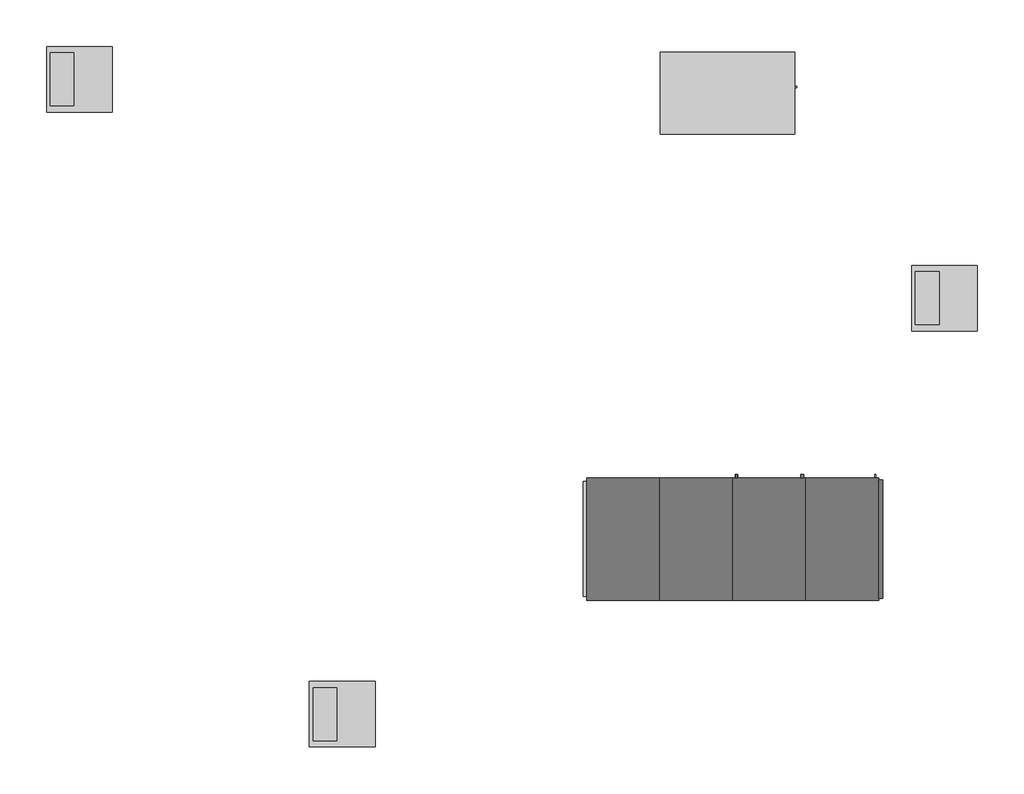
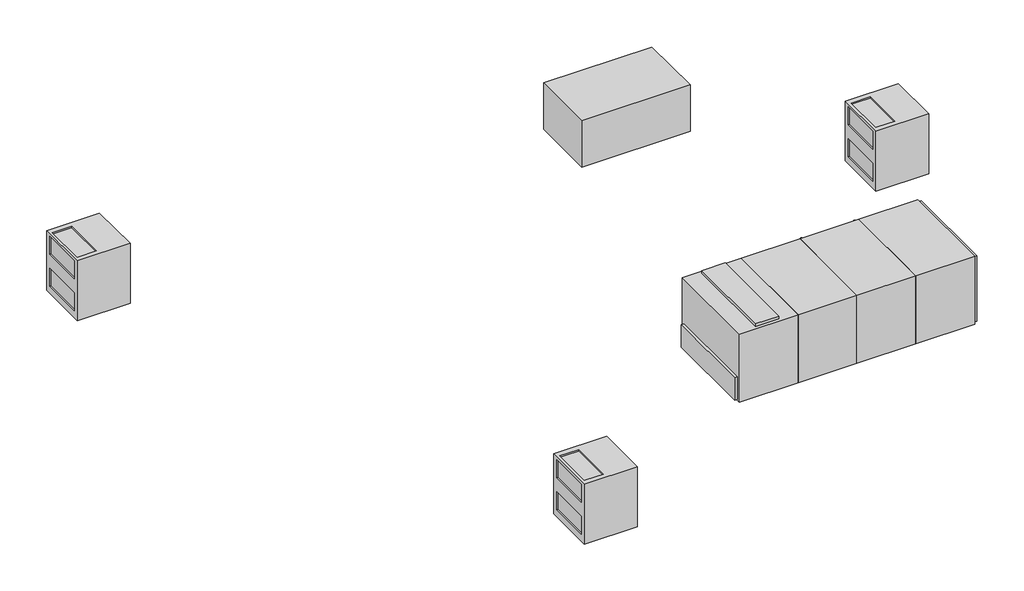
# One storey, incomplete: 5 proxies.
"""IFC4 building model written with IfcOpenShell, lengths in millimetres."""

import ifcopenshell
import ifcopenshell.guid

model = None  # the IFC model being written
_history = None  # IfcOwnerHistory: only IFC2X3 demands one
_inside = {}  # id of a spatial element -> (the spatial element, [elements in it])
_under = {}  # id of a project, library or spatial element -> (it, [spatial elements below it])
_declared = {}  # id of a project -> (the project, [libraries it declares])
_typed = {}  # id of a type object -> (the type object, [elements of that type])
_made_of = {}  # id of a material, layer set ... -> (it, [elements and type objects made of it])


def new_model(schema):
    """Start an empty IFC model of exactly this schema.

    Asked for "IFC4X3", IfcOpenShell would pick the latest addendum, in which some entities
    have other attributes; the version numbers below select the first issue.
    IFC2X3 requires an IfcOwnerHistory on every rooted entity: one is made here for all.
    """
    global model, _history
    if schema == "IFC4X3":
        model = ifcopenshell.file(schema_version=(4, 3, 0, 0))
    else:
        model = ifcopenshell.file(schema=schema)
    _inside.clear()
    _under.clear()
    _declared.clear()
    _typed.clear()
    _made_of.clear()
    _history = None
    if model.schema == "IFC2X3":
        org = make("IfcOrganization", Name="unknown")
        user = make(
            "IfcPersonAndOrganization",
            ThePerson=make("IfcPerson", FamilyName="unknown"),
            TheOrganization=org,
        )
        app = make(
            "IfcApplication",
            ApplicationDeveloper=org,
            Version="unknown",
            ApplicationFullName="unknown",
            ApplicationIdentifier="unknown",
        )
        _history = make(
            "IfcOwnerHistory",
            OwningUser=user,
            OwningApplication=app,
            ChangeAction="ADDED",
            CreationDate=0,
        )
    return model


def make(cls, **values):
    """One entity of the class cls with the attributes given. An attribute that is None is left unset."""
    return model.create_entity(
        cls, **{name: value for name, value in values.items() if value is not None}
    )


def rooted(cls, **values):
    """An entity with a GlobalId (a new one), such as an element, a storey or a relation."""
    return make(cls, GlobalId=ifcopenshell.guid.new(), OwnerHistory=_history, **values)


def si_unit(unit_type, name, prefix=None):
    """IfcSIUnit, for example si_unit("LENGTHUNIT", "METRE", prefix="MILLI")."""
    return make("IfcSIUnit", UnitType=unit_type, Prefix=prefix, Name=name)


def assignment(units):
    """IfcUnitAssignment: the units of a project."""
    return None if units is None else make("IfcUnitAssignment", Units=units)


def point(xyz):
    """IfcCartesianPoint."""
    return None if xyz is None else make("IfcCartesianPoint", Coordinates=xyz)


def direction(xyz):
    """IfcDirection."""
    return None if xyz is None else make("IfcDirection", DirectionRatios=xyz)


def frame(location, z_axis=None, x_axis=None):
    """IfcAxis2Placement3D, a coordinate frame: its origin and axes. An axis left out is left unset."""
    return make(
        "IfcAxis2Placement3D",
        Location=point(location),
        Axis=direction(z_axis),
        RefDirection=direction(x_axis),
    )


def frame_2d(location, x_axis=None):
    """IfcAxis2Placement2D, a coordinate frame in the plane: its origin and x axis."""
    return make(
        "IfcAxis2Placement2D", Location=point(location), RefDirection=direction(x_axis)
    )


def origin():
    """The frame at (0, 0, 0) with its axes left unset."""
    return frame((0.0, 0.0, 0.0))


def origin_with_axes():
    """The frame at (0, 0, 0) with the z axis (0, 0, 1) and the x axis (1, 0, 0) written out."""
    return frame((0.0, 0.0, 0.0), z_axis=(0.0, 0.0, 1.0), x_axis=(1.0, 0.0, 0.0))


def place(relative_to, where):
    """IfcLocalPlacement: puts the frame where relative to a parent placement (None: the world)."""
    return make(
        "IfcLocalPlacement", PlacementRelTo=relative_to, RelativePlacement=where
    )


def context(
    kind, dimensions, precision=None, world=None, true_north=None, identifier=None
):
    """IfcGeometricRepresentationContext, for example the 3D "Model" context."""
    return make(
        "IfcGeometricRepresentationContext",
        ContextIdentifier=identifier,
        ContextType=kind,
        CoordinateSpaceDimension=dimensions,
        Precision=precision,
        WorldCoordinateSystem=world,
        TrueNorth=true_north,
    )


def project(units=None, contexts=None):
    """IfcProject with its units and contexts."""
    return rooted(
        "IfcProject",
        Name="project",
        RepresentationContexts=contexts,
        UnitsInContext=assignment(units),
    )


def spatial(cls, under=None, at=None, **own):
    """A site, building, storey or space (cls), placed at a placement, below another one or the project."""
    s = rooted(cls, ObjectPlacement=at, **own)
    if under is not None:
        _under.setdefault(under.id(), (under, []))[1].append(s)
    return s


def polyline(points):
    """IfcPolyline through the points."""
    return make("IfcPolyline", Points=[point(p) for p in points])


def circle_curve(where, radius):
    """IfcCircle in the frame where."""
    return make("IfcCircle", Position=where, Radius=radius)


def trimmed(basis, trim1, trim2, sense, master):
    """IfcTrimmedCurve: the piece of a basis curve between two trims."""
    return make(
        "IfcTrimmedCurve",
        BasisCurve=basis,
        Trim1=trim1,
        Trim2=trim2,
        SenseAgreement=sense,
        MasterRepresentation=master,
    )


def segment(curve, same_sense, transition):
    """IfcCompositeCurveSegment."""
    return make(
        "IfcCompositeCurveSegment",
        Transition=transition,
        SameSense=same_sense,
        ParentCurve=curve,
    )


def composite_curve(segments, self_intersect=None):
    """IfcCompositeCurve: segments joined end to end."""
    return make("IfcCompositeCurve", Segments=segments, SelfIntersect=self_intersect)


def outline(outer, holes=None, kind="AREA"):
    """IfcArbitraryClosedProfileDef: a profile drawn as a closed curve; with holes, ...WithVoids."""
    if holes is None:
        return make("IfcArbitraryClosedProfileDef", ProfileType=kind, OuterCurve=outer)
    return make(
        "IfcArbitraryProfileDefWithVoids",
        ProfileType=kind,
        OuterCurve=outer,
        InnerCurves=holes,
    )


def extrude(swept, where, along, depth):
    """IfcExtrudedAreaSolid: the profile swept, set in the frame where, extruded along a direction by depth."""
    return make(
        "IfcExtrudedAreaSolid",
        SweptArea=swept,
        Position=where,
        ExtrudedDirection=direction(along),
        Depth=depth,
    )


def faces_of(points, faces, orient=None, outer=None):
    """IfcFace entities. A face is a list of loops; a loop is a list of indices into points, from 0.

    orient and outer hold one flag for each loop. By default every Orientation is true, the
    first loop of a face is its IfcFaceOuterBound and the others are IfcFaceBound.
    """
    made = []
    for i, loops in enumerate(faces):
        bounds = []
        for j, loop in enumerate(loops):
            is_outer = j == 0 if outer is None else outer[i][j]
            bounds.append(
                make(
                    "IfcFaceOuterBound" if is_outer else "IfcFaceBound",
                    Bound=make("IfcPolyLoop", Polygon=[points[k] for k in loop]),
                    Orientation=True if orient is None else orient[i][j],
                )
            )
        made.append(make("IfcFace", Bounds=bounds))
    return made


def faceted_brep(points, faces, orient=None, outer=None, voids=None):
    """IfcFacetedBrep: a solid bounded by flat faces; with voids (closed shells), ...WithVoids."""
    shared = [point(p) for p in points]
    hull = make("IfcClosedShell", CfsFaces=faces_of(shared, faces, orient, outer))
    if voids is None:
        return make("IfcFacetedBrep", Outer=hull)
    return make(
        "IfcFacetedBrepWithVoids",
        Outer=hull,
        Voids=[
            make(cls, CfsFaces=faces_of(shared, fs, o, b)) for cls, fs, o, b in voids
        ],
    )


def shape(context_of_items, identifier, shape_type, items):
    """IfcShapeRepresentation: the items that make up one representation, for example the "Body"."""
    return make(
        "IfcShapeRepresentation",
        ContextOfItems=context_of_items,
        RepresentationIdentifier=identifier,
        RepresentationType=shape_type,
        Items=items,
    )


def source(mapping_origin, context_of_items, identifier, shape_type, items):
    """IfcRepresentationMap: a shape defined once, which mapped items show again and again."""
    return make(
        "IfcRepresentationMap",
        MappingOrigin=mapping_origin,
        MappedRepresentation=shape(context_of_items, identifier, shape_type, items),
    )


def transform(
    local_origin,
    x_axis=None,
    y_axis=None,
    z_axis=None,
    scale=None,
    scale2=None,
    scale3=None,
    uniform=True,
):
    """IfcCartesianTransformationOperator3D, or its non-uniform kind. x_axis, y_axis, z_axis: its Axis1, 2, 3."""
    if uniform:
        return make(
            "IfcCartesianTransformationOperator3D",
            Axis1=direction(x_axis),
            Axis2=direction(y_axis),
            LocalOrigin=point(local_origin),
            Scale=scale,
            Axis3=direction(z_axis),
        )
    return make(
        "IfcCartesianTransformationOperator3DnonUniform",
        Axis1=direction(x_axis),
        Axis2=direction(y_axis),
        LocalOrigin=point(local_origin),
        Scale=scale,
        Axis3=direction(z_axis),
        Scale2=scale2,
        Scale3=scale3,
    )


def mapped(mapping_source, mapping_target):
    """IfcMappedItem: shows the shape of a source again, moved by a transform."""
    return make(
        "IfcMappedItem", MappingSource=mapping_source, MappingTarget=mapping_target
    )


def made_of(thing, what):
    """Note that an element or type object is made of a material, layer set ...; save() writes the relation."""
    if what is not None:
        _made_of.setdefault(what.id(), (what, []))[1].append(thing)
    return thing


def element(
    cls,
    number,
    at=None,
    inside=None,
    cuts=None,
    type_object=None,
    material=None,
    context=None,
    identifier="Body",
    shape_type=None,
    held_by="IfcProductDefinitionShape",
    body=None,
    shapes=None,
    **own,
):
    """One element of the class cls, such as IfcWall. Its Tag is "e" and its number.

    at: its placement. inside: the storey or other place that contains it. cuts: it is an
    opening in that element (IfcRelVoidsElement). A single representation is given by context,
    identifier, shape_type and body (its items); several are given by shapes. held_by: the class
    of the entity that holds the representations. save() writes the other relations.
    """
    e = rooted(cls, Tag="e%d" % number, ObjectPlacement=at, **own)
    if body is not None:
        shapes = [shape(context, identifier, shape_type, body)]
    if shapes is not None:
        e.Representation = make(held_by, Representations=shapes)
    if inside is not None:
        _inside.setdefault(inside.id(), (inside, []))[1].append(e)
    if cuts is not None:
        rooted(
            "IfcRelVoidsElement", RelatingBuildingElement=cuts, RelatedOpeningElement=e
        )
    if type_object is not None:
        _typed.setdefault(type_object.id(), (type_object, []))[1].append(e)
    return made_of(e, material)


def aggregate(whole, parts):
    """IfcRelAggregates: a whole, such as a stair, and the parts it consists of."""
    return rooted("IfcRelAggregates", RelatingObject=whole, RelatedObjects=parts)


def save(model, path):
    """Write the relations noted so far, then the file.

    IfcRelAggregates (storeys below a building ...), IfcRelContainedInSpatialStructure (elements
    in a storey), IfcRelDefinesByType, IfcRelAssociatesMaterial and IfcRelDeclares: one each for
    every whole, place, type object, material and project.
    """
    for whole, parts in _under.values():
        aggregate(whole, parts)
    for where, things in _inside.values():
        rooted(
            "IfcRelContainedInSpatialStructure",
            RelatedElements=things,
            RelatingStructure=where,
        )
    for kind, things in _typed.values():
        rooted("IfcRelDefinesByType", RelatedObjects=things, RelatingType=kind)
    for what, things in _made_of.values():
        rooted("IfcRelAssociatesMaterial", RelatedObjects=things, RelatingMaterial=what)
    for by, libraries in _declared.values():
        rooted("IfcRelDeclares", RelatingContext=by, RelatedDefinitions=libraries)
    model.write(path)


def outdoor_ahu_horizontal_12_square_feet_of_coil_fc6a1677(model_context):
    return source(origin(), model_context, "Body", "SweptSolid", [
        extrude(outline(composite_curve([segment(trimmed(circle_curve(frame_2d((50.8, 2997.2)), 15.875), [point((50.8, 2981.325))], [point((50.8, 3013.075))], False, "CARTESIAN"), True, "CONTINUOUS"), segment(trimmed(circle_curve(frame_2d((50.8, 2997.2)), 15.875), [point((50.8, 3013.075))], [point((50.8, 2981.325))], False, "CARTESIAN"), True, "CONTINUOUS")], self_intersect=False)), frame((0.0, 850.9, 0.0), z_axis=(0.0, 1.0, 0.0), x_axis=(0.0, 0.0, 1.0)), (0.0, 0.0, 1.0), 50.8),
        extrude(outline(composite_curve([segment(trimmed(circle_curve(frame_2d((254.0, 4013.2)), 6.35), [point((254.0, 4006.85))], [point((254.0, 4019.55))], False, "CARTESIAN"), True, "CONTINUOUS"), segment(trimmed(circle_curve(frame_2d((254.0, 4013.2)), 6.35), [point((254.0, 4019.55))], [point((254.0, 4006.85))], False, "CARTESIAN"), True, "CONTINUOUS")], self_intersect=False)), frame((0.0, 850.9, 0.0), z_axis=(0.0, 1.0, 0.0), x_axis=(0.0, 0.0, 1.0)), (0.0, 0.0, 1.0), 50.8),
        extrude(outline(composite_curve([segment(trimmed(circle_curve(frame_2d((254.0, 2997.2)), 19.05), [point((254.0, 2978.15))], [point((254.0, 3016.25))], False, "CARTESIAN"), True, "CONTINUOUS"), segment(trimmed(circle_curve(frame_2d((254.0, 2997.2)), 19.05), [point((254.0, 3016.25))], [point((254.0, 2978.15))], False, "CARTESIAN"), True, "CONTINUOUS")], self_intersect=False)), frame((0.0, 850.9, 0.0), z_axis=(0.0, 1.0, 0.0), x_axis=(0.0, 0.0, 1.0)), (0.0, 0.0, 1.0), 50.8),
        extrude(outline(composite_curve([segment(trimmed(circle_curve(frame_2d((254.0, 2082.8)), 19.05), [point((254.0, 2063.75))], [point((254.0, 2101.85))], False, "CARTESIAN"), True, "CONTINUOUS"), segment(trimmed(circle_curve(frame_2d((254.0, 2082.8)), 19.05), [point((254.0, 2101.85))], [point((254.0, 2063.75))], False, "CARTESIAN"), True, "CONTINUOUS")], self_intersect=False)), frame((0.0, 850.9, 0.0), z_axis=(0.0, 1.0, 0.0), x_axis=(0.0, 0.0, 1.0)), (0.0, 0.0, 1.0), 50.8),
        extrude(outline(composite_curve([segment(trimmed(circle_curve(frame_2d((1193.8, 2082.8)), 19.05), [point((1193.8, 2063.75))], [point((1193.8, 2101.85))], False, "CARTESIAN"), True, "CONTINUOUS"), segment(trimmed(circle_curve(frame_2d((1193.8, 2082.8)), 19.05), [point((1193.8, 2101.85))], [point((1193.8, 2063.75))], False, "CARTESIAN"), True, "CONTINUOUS")], self_intersect=False)), frame((0.0, 850.9, 0.0), z_axis=(0.0, 1.0, 0.0), x_axis=(0.0, 0.0, 1.0)), (0.0, 0.0, 1.0), 50.8),
        extrude(outline(composite_curve([segment(trimmed(circle_curve(frame_2d((1193.8, 2997.2)), 19.05), [point((1193.8, 2978.15))], [point((1193.8, 3016.25))], False, "CARTESIAN"), True, "CONTINUOUS"), segment(trimmed(circle_curve(frame_2d((1193.8, 2997.2)), 19.05), [point((1193.8, 3016.25))], [point((1193.8, 2978.15))], False, "CARTESIAN"), True, "CONTINUOUS")], self_intersect=False)), frame((0.0, 850.9, 0.0), z_axis=(0.0, 1.0, 0.0), x_axis=(0.0, 0.0, 1.0)), (0.0, 0.0, 1.0), 50.8),
        extrude(outline(polyline([(4114.8, 825.5), (4114.8, -825.5), (4064.0, -825.5), (4064.0, 825.5), (4114.8, 825.5)])), frame((0.0, 0.0, 25.4), z_axis=(0.0, 0.0, 1.0), x_axis=(1.0, 0.0, 0.0)), (0.0, 0.0, 1.0), 1193.8),
        extrude(outline(polyline([(0.0, 800.1), (0.0, -800.1), (-50.8, -800.1), (-50.8, 800.1), (0.0, 800.1)])), frame((0.0, 0.0, 25.4), z_axis=(0.0, 0.0, 1.0), x_axis=(1.0, 0.0, 0.0)), (0.0, 0.0, 1.0), 406.4),
        extrude(outline(polyline([(711.2, 800.1), (711.2, -800.1), (304.8, -800.1), (304.8, 800.1), (711.2, 800.1)])), frame((0.0, 0.0, 1244.6), z_axis=(0.0, 0.0, 1.0), x_axis=(1.0, 0.0, 0.0)), (0.0, 0.0, 1.0), 50.8),
        extrude(outline(polyline([(4064.0, 850.9), (4064.0, -850.9), (3048.0, -850.9), (3048.0, 850.9), (4064.0, 850.9)])), origin_with_axes(), (0.0, 0.0, 1.0), 1244.6),
        extrude(outline(polyline([(3048.0, 850.9), (3048.0, -850.9), (2032.0, -850.9), (2032.0, 850.9), (3048.0, 850.9)])), origin_with_axes(), (0.0, 0.0, 1.0), 1244.6),
        extrude(outline(polyline([(2032.0, 850.9), (2032.0, -850.9), (1016.0, -850.9), (1016.0, 850.9), (2032.0, 850.9)])), origin_with_axes(), (0.0, 0.0, 1.0), 1244.6),
        extrude(outline(polyline([(1016.0, 850.9), (1016.0, -850.9), (0.0, -850.9), (0.0, 850.9), (1016.0, 850.9)])), origin_with_axes(), (0.0, 0.0, 1.0), 1244.6),
    ])


def rooftop_ac_unit_3_12_5_tons_bottom_connection_5_ton_91a4ad55(model_context):
    return source(origin(), model_context, "Body", "SolidModel", [
        extrude(outline(composite_curve([segment(trimmed(circle_curve(frame_2d((658.8125, 177.8)), 9.525), [point((649.2875, 177.8))], [point((668.3375, 177.8))], False, "CARTESIAN"), True, "CONTINUOUS"), segment(trimmed(circle_curve(frame_2d((658.8125, 177.8)), 9.525), [point((668.3375, 177.8))], [point((649.2875, 177.8))], False, "CARTESIAN"), True, "CONTINUOUS")], self_intersect=False)), frame((0.0, 0.0, 0.0), z_axis=(1.0, 0.0, 0.0), x_axis=(0.0, 1.0, 0.0)), (0.0, 0.0, 1.0), 25.4),
        faceted_brep([(-1871.6625, 0.0, 846.1375), (0.0, 0.0, 846.1375), (0.0, 1143.0, 846.1375), (-1871.6625, 1143.0, 846.1375), (-1871.6625, 0.0, 0.0), (-1871.6625, 1143.0, 0.0), (0.0, 1143.0, 0.0), (0.0, 0.0, 0.0), (-411.1625, 138.1125, 0.0), (-80.9625, 138.1125, 0.0), (-80.9625, 595.3125, 0.0), (-411.1625, 595.3125, 0.0), (-80.9625, 998.5375, 0.0), (-741.3625, 998.5375, 0.0), (-741.3625, 719.1375, 0.0), (-80.9625, 719.1375, 0.0), (-411.1625, 138.1125, 25.4), (-411.1625, 595.3125, 25.4), (-80.9625, 595.3125, 25.4), (-80.9625, 138.1125, 25.4), (-80.9625, 998.5375, 25.4), (-80.9625, 719.1375, 25.4), (-741.3625, 719.1375, 25.4), (-741.3625, 998.5375, 25.4)], [[[0, 1, 2, 3]], [[4, 5, 6, 7], [8, 9, 10, 11], [12, 13, 14, 15]], [[1, 0, 4, 7]], [[2, 1, 7, 6]], [[3, 2, 6, 5]], [[0, 3, 5, 4]], [[16, 17, 18, 19]], [[16, 19, 9, 8]], [[19, 18, 10, 9]], [[18, 17, 11, 10]], [[17, 16, 8, 11]], [[20, 21, 22, 23]], [[20, 23, 13, 12]], [[23, 22, 14, 13]], [[22, 21, 15, 14]], [[21, 20, 12, 15]]]),
    ])


def rooftop_ahu_mixing_box_filter_1500_cfm_dea60fe3(model_context):
    return source(origin(), model_context, "Body", "Brep", [
        faceted_brep([(-1088.23125, -161.925, 1092.2), (-173.83125, -161.925, 1092.2), (-173.83125, 752.475, 1092.2), (-1088.23125, 752.475, 1092.2), (-1037.43125, 663.575, 1092.2), (-707.23125, 663.575, 1092.2), (-707.23125, -73.025, 1092.2), (-1037.43125, -73.025, 1092.2), (-1088.23125, -161.925, 0.0), (-1088.23125, 752.475, 0.0), (-173.83125, 752.475, 0.0), (-173.83125, -161.925, 0.0), (-707.23125, -73.025, 0.0), (-707.23125, 663.575, 0.0), (-1037.43125, 663.575, 0.0), (-1037.43125, -73.025, 0.0), (-1088.23125, 663.575, 457.2), (-1088.23125, -73.025, 457.2), (-1088.23125, -73.025, 127.0), (-1088.23125, 663.575, 127.0), (-1088.23125, 663.575, 1041.4), (-1088.23125, -73.025, 1041.4), (-1088.23125, -73.025, 711.2), (-1088.23125, 663.575, 711.2), (-707.23125, -73.025, 25.4), (-1037.43125, -73.025, 25.4), (-1037.43125, 663.575, 25.4), (-707.23125, 663.575, 25.4), (-1062.83125, 663.575, 457.2), (-1062.83125, 663.575, 127.0), (-1062.83125, -73.025, 127.0), (-1062.83125, -73.025, 457.2), (-1062.83125, 663.575, 1041.4), (-1062.83125, 663.575, 711.2), (-1062.83125, -73.025, 711.2), (-1062.83125, -73.025, 1041.4), (-707.23125, 663.575, 1066.8), (-1037.43125, 663.575, 1066.8), (-1037.43125, -73.025, 1066.8), (-707.23125, -73.025, 1066.8)], [[[0, 1, 2, 3], [4, 5, 6, 7]], [[8, 9, 10, 11], [12, 13, 14, 15]], [[1, 0, 8, 11]], [[2, 1, 11, 10]], [[3, 2, 10, 9]], [[0, 3, 9, 8], [16, 17, 18, 19], [20, 21, 22, 23]], [[24, 25, 26, 27]], [[24, 27, 13, 12]], [[27, 26, 14, 13]], [[26, 25, 15, 14]], [[25, 24, 12, 15]], [[28, 29, 30, 31]], [[28, 31, 17, 16]], [[31, 30, 18, 17]], [[30, 29, 19, 18]], [[29, 28, 16, 19]], [[32, 33, 34, 35]], [[32, 35, 21, 20]], [[35, 34, 22, 21]], [[34, 33, 23, 22]], [[33, 32, 20, 23]], [[36, 37, 38, 39]], [[37, 36, 5, 4]], [[38, 37, 4, 7]], [[39, 38, 7, 6]], [[36, 39, 6, 5]]]),
    ])


model = new_model("IFC4")

# Units and contexts
model_context = context("Model", 3, world=origin())
ifc_project = project(units=[si_unit("LENGTHUNIT", "METRE", prefix="MILLI")], contexts=[model_context])

# Site, building, storey
site = spatial("IfcSite", under=ifc_project)
building = spatial("IfcBuilding", under=site)
storey = spatial("IfcBuildingStorey", under=building, Name="T.O. PARAPET", Elevation=39014.4)

# Proxies
placement = place(None, origin())
outdoor_ahu_horizontal_12_square_feet_of_coil_shape = outdoor_ahu_horizontal_12_square_feet_of_coil_fc6a1677(model_context)
element("IfcBuildingElementProxy", 1, Name="Outdoor AHU - Horizontal : 12 Square Feet of Coil", ObjectType="Outdoor AHU - Horizontal : 12 Square Feet of Coil", at=placement, inside=storey, context=model_context, shape_type="MappedRepresentation", body=[
    mapped(outdoor_ahu_horizontal_12_square_feet_of_coil_shape, transform((-6105.635253, 397.0010405, 39014.4), x_axis=(1.0, 0.0, 0.0), y_axis=(0.0, 1.0, 0.0), z_axis=(0.0, 0.0, 1.0))),
])
rooftop_ac_unit_3_12_5_tons_bottom_connection_5_ton_shape = rooftop_ac_unit_3_12_5_tons_bottom_connection_5_ton_91a4ad55(model_context)
element("IfcBuildingElementProxy", 2, Name="Rooftop AC Unit - 3-12.5 Tons - Bottom Connection : 5 Ton", ObjectType="Rooftop AC Unit - 3-12.5 Tons - Bottom Connection : 5 Ton", at=placement, inside=storey, context=model_context, shape_type="MappedRepresentation", body=[
    mapped(rooftop_ac_unit_3_12_5_tons_bottom_connection_5_ton_shape, transform((-3210.035253, 6035.8010405, 39014.4), x_axis=(1.0, 0.0, 0.0), y_axis=(0.0, 1.0, 0.0), z_axis=(0.0, 0.0, 1.0))),
])
rooftop_ahu_mixing_box_filter_1500_cfm_shape = rooftop_ahu_mixing_box_filter_1500_cfm_dea60fe3(model_context)
element("IfcBuildingElementProxy", 3, Name="Rooftop AHU Mixing Box : Filter - 1500 CFM", ObjectType="Rooftop AHU Mixing Box : Filter - 1500 CFM", at=placement, inside=storey, context=model_context, shape_type="MappedRepresentation", body=[
    mapped(rooftop_ahu_mixing_box_filter_1500_cfm_shape, transform((-496.204003, 3454.5260405, 39014.4), x_axis=(1.0, 0.0, 0.0), y_axis=(0.0, 1.0, 0.0), z_axis=(0.0, 0.0, 1.0))),
])
element("IfcBuildingElementProxy", 4, Name="Rooftop AHU Mixing Box : Filter - 1500 CFM", ObjectType="Rooftop AHU Mixing Box : Filter - 1500 CFM", at=placement, inside=storey, context=model_context, shape_type="MappedRepresentation", body=[
    mapped(rooftop_ahu_mixing_box_filter_1500_cfm_shape, transform((-8878.204003, -2336.6739595, 39014.4), x_axis=(1.0, 0.0, 0.0), y_axis=(0.0, 1.0, 0.0), z_axis=(0.0, 0.0, 1.0))),
])
element("IfcBuildingElementProxy", 5, Name="Rooftop AHU Mixing Box : Filter - 1500 CFM", ObjectType="Rooftop AHU Mixing Box : Filter - 1500 CFM", at=placement, inside=storey, context=model_context, shape_type="MappedRepresentation", body=[
    mapped(rooftop_ahu_mixing_box_filter_1500_cfm_shape, transform((-12535.804003, 6502.5260405, 39014.4), x_axis=(1.0, 0.0, 0.0), y_axis=(0.0, 1.0, 0.0), z_axis=(0.0, 0.0, 1.0))),
])

save(model, "model.ifc")
